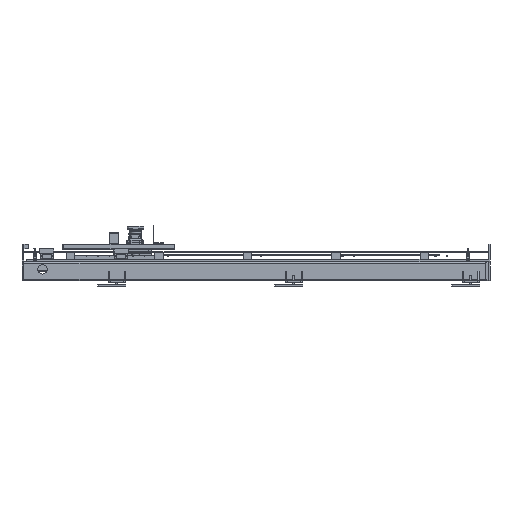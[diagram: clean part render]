
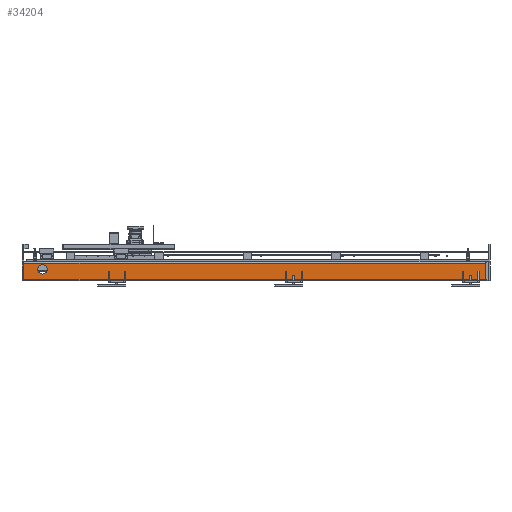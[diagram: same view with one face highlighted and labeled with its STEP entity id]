
A CAD part, front view. The second image highlights one B-rep face of the part: STEP entity #34204.
In plain terms, the highlighted planar face has unit normal (0, -1, 0).
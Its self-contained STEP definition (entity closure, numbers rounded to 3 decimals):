
#2245 = DIRECTION ( 'NONE',  ( 0., -1., 0. ) ) ;
#8700 = EDGE_CURVE ( 'NONE', #314774, #150457, #82751, .T. ) ;
#24194 = CARTESIAN_POINT ( 'NONE',  ( -2480., -400., 84. ) ) ;
#26572 = VECTOR ( 'NONE', #248518, 1000. ) ;
#28000 = ORIENTED_EDGE ( 'NONE', *, *, #100692, .T. ) ;
#28936 = VECTOR ( 'NONE', #244939, 1000. ) ;
#31773 = DIRECTION ( 'NONE',  ( 1., 0., 0. ) ) ;
#34204 = ADVANCED_FACE ( 'NONE', ( #140511, #83142 ), #223078, .F. ) ;
#46242 = AXIS2_PLACEMENT_3D ( 'NONE', #83692, #194732, #252608 ) ;
#55911 = EDGE_CURVE ( 'NONE', #150457, #314774, #337877, .T. ) ;
#58669 = ORIENTED_EDGE ( 'NONE', *, *, #189999, .F. ) ;
#81150 = ORIENTED_EDGE ( 'NONE', *, *, #305843, .F. ) ;
#82751 = CIRCLE ( 'NONE', #129480, 50. ) ;
#83142 = FACE_OUTER_BOUND ( 'NONE', #220968, .T. ) ;
#83692 = CARTESIAN_POINT ( 'NONE',  ( -2480., -400., 84. ) ) ;
#100692 = EDGE_CURVE ( 'NONE', #360834, #199613, #132395, .T. ) ;
#102157 = CARTESIAN_POINT ( 'NONE',  ( -2280., -400., 20. ) ) ;
#104664 = AXIS2_PLACEMENT_3D ( 'NONE', #102157, #300589, #158927 ) ;
#111831 = CARTESIAN_POINT ( 'NONE',  ( -2480., -400., 84. ) ) ;
#129480 = AXIS2_PLACEMENT_3D ( 'NONE', #139124, #2245, #31773 ) ;
#132395 = LINE ( 'NONE', #166131, #136610 ) ;
#132604 = CARTESIAN_POINT ( 'NONE',  ( 2480., -400., 84. ) ) ;
#132931 = DIRECTION ( 'NONE',  ( 0., 0., 1. ) ) ;
#136610 = VECTOR ( 'NONE', #132931, 1000. ) ;
#139124 = CARTESIAN_POINT ( 'NONE',  ( -2280., -400., 20. ) ) ;
#140511 = FACE_BOUND ( 'NONE', #289096, .T. ) ;
#144914 = ORIENTED_EDGE ( 'NONE', *, *, #8700, .F. ) ;
#150457 = VERTEX_POINT ( 'NONE', #332544 ) ;
#153751 = ORIENTED_EDGE ( 'NONE', *, *, #290149, .T. ) ;
#154500 = CARTESIAN_POINT ( 'NONE',  ( -2330., -400., 20. ) ) ;
#156362 = VERTEX_POINT ( 'NONE', #224543 ) ;
#158927 = DIRECTION ( 'NONE',  ( 1., 0., 0. ) ) ;
#158978 = CARTESIAN_POINT ( 'NONE',  ( -2480., -400., -84. ) ) ;
#166131 = CARTESIAN_POINT ( 'NONE',  ( 2480., -400., 84. ) ) ;
#189999 = EDGE_CURVE ( 'NONE', #156362, #334691, #293485, .T. ) ;
#194732 = DIRECTION ( 'NONE',  ( 0., 1., 0. ) ) ;
#199613 = VERTEX_POINT ( 'NONE', #132604 ) ;
#220968 = EDGE_LOOP ( 'NONE', ( #28000, #81150, #58669, #153751 ) ) ;
#223078 = PLANE ( 'NONE',  #46242 ) ;
#224543 = CARTESIAN_POINT ( 'NONE',  ( -2480., -400., -84. ) ) ;
#244939 = DIRECTION ( 'NONE',  ( 0., 0., 1. ) ) ;
#248518 = DIRECTION ( 'NONE',  ( 1., 0., 0. ) ) ;
#252608 = DIRECTION ( 'NONE',  ( -1., 0., 0. ) ) ;
#276811 = CARTESIAN_POINT ( 'NONE',  ( 2480., -400., -84. ) ) ;
#278040 = LINE ( 'NONE', #335937, #26572 ) ;
#289096 = EDGE_LOOP ( 'NONE', ( #356148, #144914 ) ) ;
#290149 = EDGE_CURVE ( 'NONE', #156362, #360834, #359799, .T. ) ;
#293485 = LINE ( 'NONE', #24194, #28936 ) ;
#300589 = DIRECTION ( 'NONE',  ( 0., -1., 0. ) ) ;
#305843 = EDGE_CURVE ( 'NONE', #334691, #199613, #278040, .T. ) ;
#314774 = VERTEX_POINT ( 'NONE', #154500 ) ;
#332544 = CARTESIAN_POINT ( 'NONE',  ( -2230., -400., 20. ) ) ;
#334691 = VERTEX_POINT ( 'NONE', #111831 ) ;
#335937 = CARTESIAN_POINT ( 'NONE',  ( -2480., -400., 84. ) ) ;
#337877 = CIRCLE ( 'NONE', #104664, 50. ) ;
#356137 = DIRECTION ( 'NONE',  ( 1., 0., 0. ) ) ;
#356148 = ORIENTED_EDGE ( 'NONE', *, *, #55911, .F. ) ;
#359384 = VECTOR ( 'NONE', #356137, 1000. ) ;
#359799 = LINE ( 'NONE', #158978, #359384 ) ;
#360834 = VERTEX_POINT ( 'NONE', #276811 ) ;
